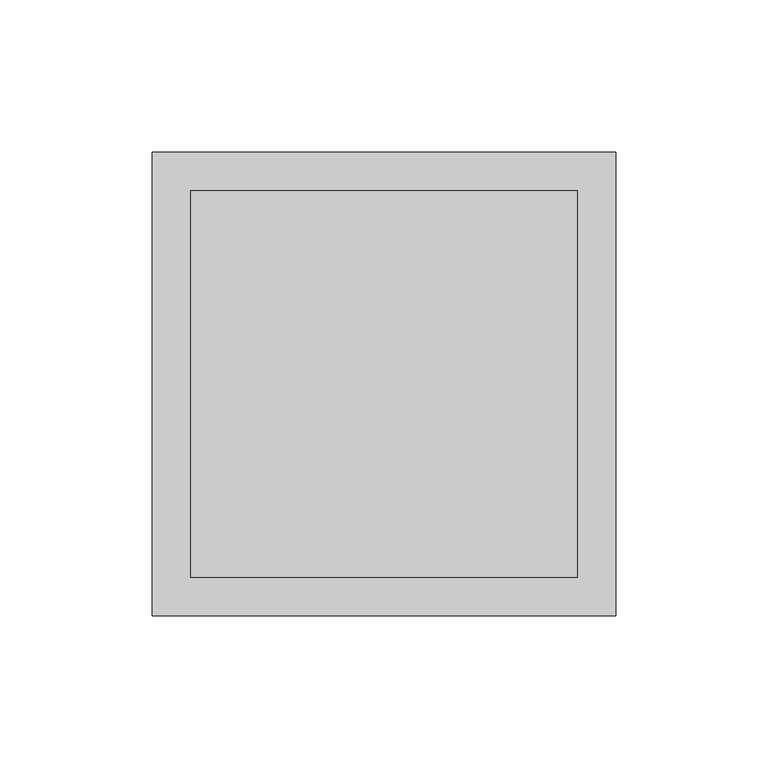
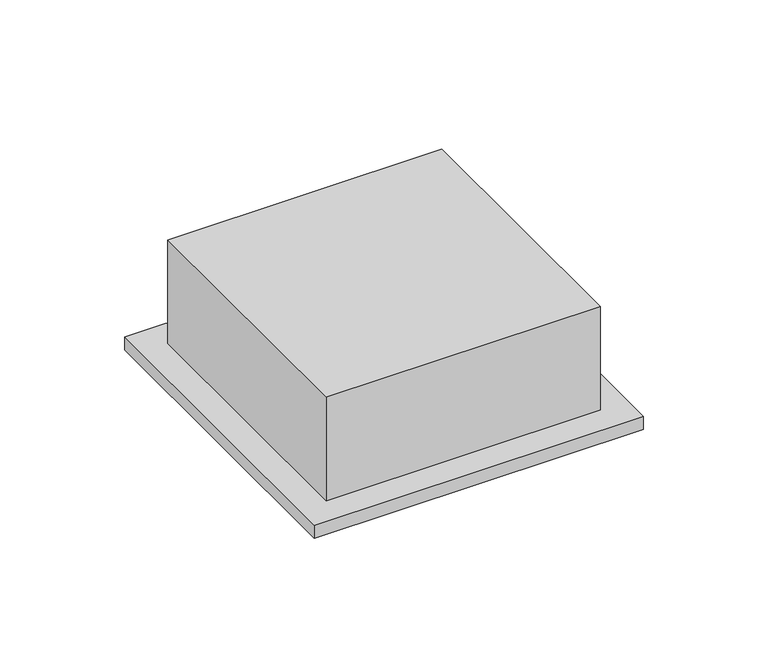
"""IFC4 building model written with IfcOpenShell, lengths in millimetres: alarm geometry, FireBIM Tutorial Addressable Module (Wall) : Addressable Input Output."""

from ifc_helpers import new_model, si_unit, frame, origin, origin_with_axes, place, context, project, spatial, polyline, outline, extrude, source, transform, mapped, element, save


def alarm_b003a3a8(model_context):
    return source(origin(), model_context, "Body", "SweptSolid", [
        extrude(outline(polyline([(63.5, 63.5), (63.5, -63.5), (-63.5, -63.5), (-63.5, 63.5), (63.5, 63.5)])), origin_with_axes(), (0.0, 0.0, 1.0), 50.8),
        extrude(outline(polyline([(76.2, 76.2), (76.2, -76.2), (-76.2, -76.2), (-76.2, 76.2), (76.2, 76.2)])), frame((0.0, 0.0, -6.35), z_axis=(0.0, 0.0, 1.0), x_axis=(1.0, 0.0, 0.0)), (0.0, 0.0, 1.0), 6.35),
    ])


if __name__ == "__main__":
    model = new_model("IFC4")
    model_context = context("Model", 3, world=origin())
    ifc_project = project(units=[si_unit("LENGTHUNIT", "METRE", prefix="MILLI")], contexts=[model_context])
    site = spatial("IfcSite", under=ifc_project)
    building = spatial("IfcBuilding", under=site)
    placement = place(None, origin())
    alarm_shape = alarm_b003a3a8(model_context)
    element("IfcAlarm", 1, ObjectType="FireBIM Tutorial Addressable Module (Wall) : Addressable Input Output", at=placement, inside=building, context=model_context, shape_type="MappedRepresentation", body=[
        mapped(alarm_shape, transform((0.0, 0.0, 0.0), x_axis=(1.0, 0.0, 0.0), y_axis=(0.0, 1.0, 0.0), z_axis=(0.0, 0.0, 1.0))),
    ])
    save(model, "model.ifc")
